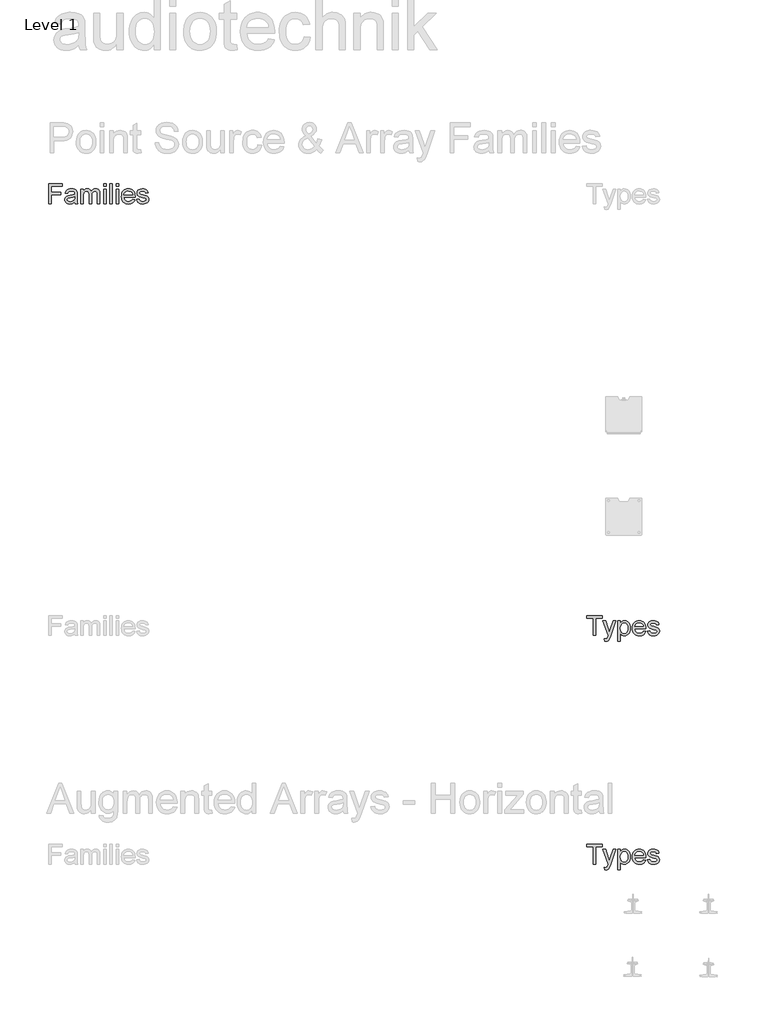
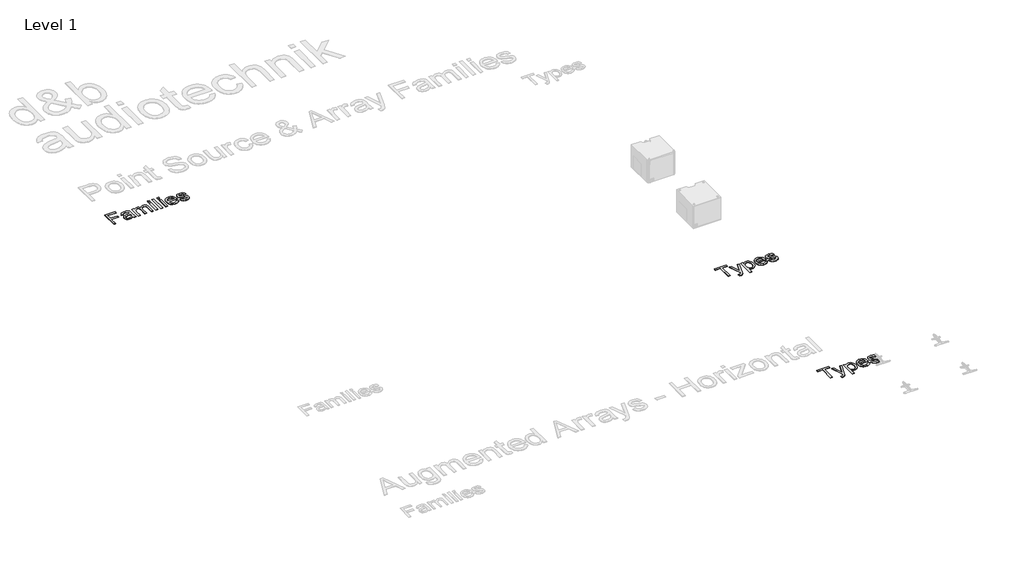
# One storey, part 6 of 9: 3 proxies.
"""IFC4 building model written with IfcOpenShell, lengths in millimetres."""

from ifc_helpers import new_model, si_unit, origin, origin_with_axes, place, context, project, spatial, polyline, outline, extrude, element, save

model = new_model("IFC4")

# Units and contexts
model_context = context("Model", 3, world=origin())
ifc_project = project(units=[si_unit("LENGTHUNIT", "METRE", prefix="MILLI")], contexts=[model_context])

# Site, building, storey
site = spatial("IfcSite", under=ifc_project)
building = spatial("IfcBuilding", under=site)
storey = spatial("IfcBuildingStorey", under=building, Name="Level 1", Elevation=0.0)

# Proxies
placement = place(None, origin())
element("IfcBuildingElementProxy", 1, Name="400mm Arial", ObjectType="400mm Arial", at=placement, inside=storey, context=model_context, shape_type="SweptSolid", body=[
    extrude(outline(polyline([(-21056.720891, 17351.3054836), (-21056.720891, 17743.0630593), (-20793.5087698, 17743.0630593), (-20793.5087698, 17694.0933624), (-21007.7511941, 17694.0933624), (-21007.7511941, 17577.7903321), (-20824.1148304, 17577.7903321), (-20824.1148304, 17528.8206351), (-21007.7511941, 17528.8206351), (-21007.7511941, 17351.3054836), (-21056.720891, 17351.3054836)])), origin_with_axes(), (0.0, 0.0, 1.0), 5.0),
    extrude(outline(polyline([(-20548.660285, 17388.0327563), (-20572.0571836, 17367.97144), (-20596.1475009, 17354.8443093), (-20621.4811893, 17347.5992809), (-20648.6082016, 17345.1842715), (-20670.4120309, 17346.6368638), (-20689.5318522, 17350.9946408), (-20705.9676654, 17358.2576024), (-20719.7194706, 17368.4257487), (-20730.5780466, 17380.8534831), (-20738.3341723, 17394.895209), (-20742.9878477, 17410.5509263), (-20744.5390729, 17427.8206351), (-20742.1957963, 17448.1210612), (-20735.1659668, 17466.5564305), (-20724.3223352, 17482.3376805), (-20710.5376524, 17494.6757487), (-20676.2493001, 17510.7439305), (-20633.879035, 17518.1085139), (-20583.8094327, 17525.855673), (-20548.9472168, 17534.9418472), (-20548.660285, 17545.8452563), (-20552.0317338, 17567.6998965), (-20562.1460804, 17581.9986654), (-20584.7658721, 17592.6151427), (-20616.2805501, 17596.1539684), (-20645.4519516, 17593.7987364), (-20665.8241107, 17586.7330404), (-20679.7163929, 17573.6656872), (-20689.4481638, 17553.3054836), (-20738.4178607, 17559.4266957), (-20729.9175056, 17586.2069987), (-20717.2327282, 17607.2486654), (-20699.1799346, 17623.3407582), (-20674.5755312, 17635.2723396), (-20644.4835568, 17642.660834), (-20609.9680501, 17645.1236654), (-20576.8632916, 17642.9477658), (-20550.6209857, 17636.4200669), (-20530.8346458, 17626.6046076), (-20517.097785, 17614.5654268), (-20507.9876997, 17599.6808387), (-20502.0816865, 17581.3291578), (-20499.690588, 17538.480673), (-20499.690588, 17477.5554836), (-20497.2038456, 17392.4801995), (-20487.4481638, 17351.3054836), (-20536.4178607, 17351.3054836), (-20544.2606638, 17368.3301048), (-20548.660285, 17388.0327563)]), holes=[polyline([(-20548.660285, 17485.9721502), (-20581.5618001, 17477.8185044), (-20627.6621789, 17470.9560518), (-20669.7933342, 17463.0176048), (-20680.7565208, 17457.5898112), (-20688.8743001, 17450.105673), (-20693.8956069, 17441.1390536), (-20695.5693759, 17431.2638169), (-20691.9229507, 17416.7020271), (-20680.9836751, 17404.7704457), (-20662.990659, 17396.8080877), (-20638.1830122, 17394.1539684), (-20611.8809289, 17397.0830641), (-20588.6394516, 17405.870351), (-20569.7975956, 17418.8181493), (-20556.6943759, 17434.228779), (-20550.8840066, 17450.105673), (-20548.9472168, 17472.103779), (-20548.660285, 17485.9721502)])]), origin_with_axes(), (0.0, 0.0, 1.0), 5.0),
    extrude(outline(polyline([(-20432.3572547, 17351.3054836), (-20432.3572547, 17639.0024533), (-20383.3875577, 17639.0024533), (-20383.3875577, 17591.6587033), (-20368.658391, 17613.405744), (-20349.720891, 17630.4423207), (-20327.2206543, 17641.4533292), (-20301.8032774, 17645.1236654), (-20274.5686657, 17641.3815963), (-20252.7379365, 17630.1553889), (-20236.4306448, 17612.1862838), (-20225.7663456, 17588.2155215), (-20207.9167954, 17613.1128344), (-20187.5565918, 17630.8966294), (-20164.6857348, 17641.5669064), (-20139.3042244, 17645.1236654), (-20119.7002057, 17643.6441732), (-20102.4932632, 17639.2056966), (-20087.683397, 17631.8082357), (-20075.2706069, 17621.4517904), (-20065.4581365, 17608.0168058), (-20058.4492291, 17591.3837269), (-20054.2438846, 17571.5525539), (-20052.8421032, 17548.5232866), (-20052.8421032, 17351.3054836), (-20101.8118001, 17351.3054836), (-20101.8118001, 17527.4816199), (-20106.3548872, 17568.369404), (-20112.7391202, 17579.6434334), (-20122.8056448, 17588.5024533), (-20135.7534431, 17594.2410896), (-20150.7814971, 17596.1539684), (-20177.3107348, 17591.2522165), (-20198.9382206, 17576.5469608), (-20207.3279874, 17565.2669537), (-20213.320678, 17551.03394), (-20218.1148304, 17513.7088927), (-20218.1148304, 17351.3054836), (-20267.0845274, 17351.3054836), (-20267.0845274, 17532.9333245), (-20269.9179791, 17560.6222449), (-20278.4183342, 17580.3727184), (-20293.3746552, 17592.2086559), (-20315.5760047, 17596.1539684), (-20334.4417717, 17593.5237601), (-20351.8250577, 17585.6331351), (-20366.1716486, 17572.6733813), (-20375.9273304, 17554.8357866), (-20381.5225009, 17530.0879173), (-20383.3875577, 17496.3973396), (-20383.3875577, 17351.3054836), (-20432.3572547, 17351.3054836)])), origin_with_axes(), (0.0, 0.0, 1.0), 5.0),
    extrude(outline(polyline([(-19979.3875577, 17351.3054836), (-19979.3875577, 17639.0024533), (-19930.4178607, 17639.0024533), (-19930.4178607, 17351.3054836), (-19979.3875577, 17351.3054836)])), origin_with_axes(), (0.0, 0.0, 1.0), 5.0),
    extrude(outline(polyline([(-19979.3875577, 17694.0933624), (-19979.3875577, 17743.0630593), (-19930.4178607, 17743.0630593), (-19930.4178607, 17694.0933624), (-19979.3875577, 17694.0933624)])), origin_with_axes(), (0.0, 0.0, 1.0), 5.0),
    extrude(outline(polyline([(-19856.9633153, 17351.3054836), (-19856.9633153, 17743.0630593), (-19807.9936183, 17743.0630593), (-19807.9936183, 17351.3054836), (-19856.9633153, 17351.3054836)])), origin_with_axes(), (0.0, 0.0, 1.0), 5.0),
    extrude(outline(polyline([(-19734.5390729, 17351.3054836), (-19734.5390729, 17639.0024533), (-19685.5693759, 17639.0024533), (-19685.5693759, 17351.3054836), (-19734.5390729, 17351.3054836)])), origin_with_axes(), (0.0, 0.0, 1.0), 5.0),
    extrude(outline(polyline([(-19734.5390729, 17694.0933624), (-19734.5390729, 17743.0630593), (-19685.5693759, 17743.0630593), (-19685.5693759, 17694.0933624), (-19734.5390729, 17694.0933624)])), origin_with_axes(), (0.0, 0.0, 1.0), 5.0),
    extrude(outline(polyline([(-19410.6886941, 17437.0024533), (-19362.6754365, 17430.8812411), (-19370.0370309, 17411.6508316), (-19379.975034, 17394.7039211), (-19392.4894457, 17380.0405096), (-19407.580266, 17367.6605972), (-19425.0920736, 17357.8272047), (-19444.8694469, 17350.8033529), (-19491.220891, 17345.1842715), (-19521.605775, 17347.6082475), (-19548.6789876, 17354.8801758), (-19572.4405288, 17367.0000563), (-19592.8903986, 17383.9678889), (-19609.3351784, 17405.3114317), (-19621.0814497, 17430.5584429), (-19628.1292125, 17459.7089223), (-19630.4784668, 17492.7628699), (-19628.1053015, 17526.937645), (-19620.9858058, 17557.0595082), (-19609.1199796, 17583.1284594), (-19592.5078229, 17605.1444987), (-19572.1117528, 17622.6353841), (-19548.8941865, 17635.1288737), (-19522.855124, 17642.6249675), (-19493.9945653, 17645.1236654), (-19466.0635461, 17642.6309452), (-19440.8045795, 17635.1527847), (-19418.2176654, 17622.6891839), (-19398.3028039, 17605.2401427), (-19382.0463231, 17583.2719253), (-19370.4345511, 17557.2507961), (-19363.4674879, 17527.1767549), (-19361.1451335, 17493.0498018), (-19361.4320653, 17479.8509381), (-19581.5087698, 17479.8509381), (-19578.6723292, 17460.3096858), (-19573.0323257, 17443.1953983), (-19564.5887592, 17428.5080759), (-19553.3416297, 17416.2477184), (-19524.9234242, 17399.6774059), (-19490.2644516, 17394.1539684), (-19464.2014782, 17396.7124438), (-19442.2511941, 17404.3878699), (-19424.4135994, 17417.6584665), (-19410.6886941, 17437.0024533)]), holes=[polyline([(-19581.5087698, 17528.8206351), (-19410.1148304, 17528.8206351), (-19416.7381732, 17554.6923207), (-19429.721838, 17573.199423), (-19443.076123, 17583.2420366), (-19458.2715539, 17590.4153321), (-19494.1858532, 17596.1539684), (-19527.1949677, 17591.5750148), (-19554.4893569, 17577.838154), (-19573.4627234, 17556.4258671), (-19581.5087698, 17528.8206351)])]), origin_with_axes(), (0.0, 0.0, 1.0), 5.0),
    extrude(outline(polyline([(-19330.5390729, 17437.0024533), (-19281.5693759, 17443.1236654), (-19273.8461278, 17422.1776427), (-19258.9017622, 17406.7789684), (-19236.6406354, 17397.3102184), (-19206.9671032, 17394.1539684), (-19177.6522357, 17397.0471976), (-19157.0409668, 17405.7268851), (-19144.8463645, 17418.3040631), (-19140.7814971, 17432.8897639), (-19144.8702755, 17445.371298), (-19157.1366107, 17454.8878699), (-19207.5409668, 17468.8518851), (-19281.2824441, 17492.8106919), (-19299.9449677, 17504.8498728), (-19313.4666297, 17520.7865442), (-19321.680053, 17539.6044893), (-19324.4178607, 17560.2874911), (-19322.2180501, 17579.2608576), (-19315.6186183, 17596.775654), (-19305.2173399, 17612.1384618), (-19291.6119895, 17624.6558624), (-19260.4798872, 17639.1459192), (-19218.3487319, 17645.1236654), (-19186.4753891, 17642.7206114), (-19158.7625577, 17635.5114495), (-19136.4775198, 17624.2015536), (-19120.8875577, 17609.496298), (-19110.5580122, 17590.3077326), (-19104.0542244, 17565.5479078), (-19153.0239213, 17559.4266957), (-19159.2049109, 17574.8373254), (-19171.4353797, 17586.4461086), (-19189.8348825, 17593.7270035), (-19214.5229744, 17596.1539684), (-19242.6422925, 17593.8346029), (-19261.3885047, 17586.8765063), (-19271.933249, 17576.8338927), (-19275.4481638, 17565.260976), (-19269.6138835, 17551.010029), (-19251.345891, 17540.2022639), (-19209.1669138, 17529.7770745), (-19137.2904933, 17506.7268851), (-19118.3051713, 17495.7039211), (-19103.9107585, 17480.6160896), (-19094.8365397, 17461.4155688), (-19091.8118001, 17438.0545366), (-19095.3625814, 17413.9044419), (-19106.0149251, 17391.1890063), (-19123.3623446, 17371.6895982), (-19146.9983532, 17357.1875858), (-19175.5480691, 17348.1851), (-19207.6366107, 17345.1842715), (-19233.9924938, 17346.630886), (-19257.0127944, 17350.9707298), (-19276.6975127, 17358.2038027), (-19293.0466486, 17368.3301048), (-19306.4009336, 17381.3018141), (-19317.1010994, 17397.0711086), (-19325.1471458, 17415.6379883), (-19330.5390729, 17437.0024533)])), origin_with_axes(), (0.0, 0.0, 1.0), 5.0),
])
element("IfcBuildingElementProxy", 2, Name="400mm Arial", ObjectType="400mm Arial", at=placement, inside=storey, context=model_context, shape_type="SweptSolid", body=[
    extrude(outline(polyline([(-10345.9583027, 4351.3054836), (-10345.9583027, 4694.0933624), (-10474.5037572, 4694.0933624), (-10474.5037572, 4743.0630593), (-10168.4431512, 4743.0630593), (-10168.4431512, 4694.0933624), (-10296.9886057, 4694.0933624), (-10296.9886057, 4351.3054836), (-10345.9583027, 4351.3054836)])), origin_with_axes(), (0.0, 0.0, 1.0), 5.0),
    extrude(outline(polyline([(-10119.4734542, 4241.1236654), (-10125.5946663, 4288.2761275), (-10100.7272421, 4283.9721502), (-10087.6479334, 4285.3231209), (-10077.4857648, 4289.3760328), (-10063.2348179, 4304.4399533), (-10049.8446663, 4340.4977184), (-10046.0189088, 4352.3575669), (-10150.0795148, 4639.0024533), (-10098.4317875, 4639.0024533), (-10043.2452345, 4479.2770745), (-10024.0208027, 4415.386923), (-10004.7963709, 4471.8168472), (-9948.0795148, 4639.0024533), (-9896.8143633, 4639.0024533), (-9996.9535679, 4344.4191199), (-10022.9687194, 4280.5289684), (-10036.2871379, 4260.1328983), (-10051.3749694, 4246.0015063), (-10068.9017213, 4237.7522165), (-10089.5369012, 4235.0024533), (-10119.4734542, 4241.1236654)])), origin_with_axes(), (0.0, 0.0, 1.0), 5.0),
    extrude(outline(polyline([(-9856.261333, 4241.1236654), (-9856.261333, 4639.0024533), (-9807.291636, 4639.0024533), (-9807.291636, 4590.9891957), (-9791.3190982, 4614.6730262), (-9773.4336815, 4631.590048), (-9752.5833027, 4641.740261), (-9727.7158785, 4645.1236654), (-9694.5991644, 4640.3892904), (-9665.6429618, 4626.1861654), (-9642.0667307, 4603.3750858), (-9625.0899315, 4572.8168472), (-9614.832119, 4536.7351711), (-9611.4128482, 4497.353779), (-9615.2744722, 4455.4736891), (-9626.8593444, 4418.0171313), (-9645.7968444, 4386.885029), (-9671.7163519, 4363.9783055), (-9701.9039703, 4349.88278), (-9733.6458027, 4345.1842715), (-9756.1579949, 4348.328566), (-9776.2551777, 4357.7614495), (-9793.4591313, 4372.000441), (-9807.291636, 4389.5630593), (-9807.291636, 4241.1236654), (-9856.261333, 4241.1236654)]), holes=[polyline([(-9807.291636, 4492.8585139), (-9801.9953529, 4448.9579457), (-9795.374999, 4431.9572355), (-9786.1065035, 4418.2562411), (-9762.6617828, 4400.1795366), (-9749.2447314, 4395.6603605), (-9734.697886, 4394.1539684), (-9719.9418195, 4395.7141602), (-9706.2796805, 4400.3947355), (-9682.2371853, 4419.1170366), (-9672.6757802, 4433.3141839), (-9665.8462052, 4450.9425574), (-9660.3825451, 4496.4929836), (-9665.7146947, 4540.1544419), (-9672.3798818, 4557.2866625), (-9681.7111436, 4571.2865442), (-9705.1199978, 4589.9371124), (-9718.3846166, 4594.5997544), (-9732.6893633, 4596.1539684), (-9746.9492769, 4594.5011216), (-9760.3663283, 4589.5425811), (-9784.6718444, 4569.7084192), (-9794.5680032, 4554.9882191), (-9801.6366881, 4537.2731682), (-9805.8778991, 4516.5632665), (-9807.291636, 4492.8585139)])]), origin_with_axes(), (0.0, 0.0, 1.0), 5.0),
    extrude(outline(polyline([(-9354.8958027, 4437.0024533), (-9306.8825451, 4430.8812411), (-9314.2441396, 4411.6508316), (-9324.1821427, 4394.7039211), (-9336.6965544, 4380.0405096), (-9351.7873747, 4367.6605972), (-9369.2991822, 4357.8272047), (-9389.0765555, 4350.8033529), (-9435.4279997, 4345.1842715), (-9465.8128837, 4347.6082475), (-9492.8860963, 4354.8801758), (-9516.6476375, 4367.0000563), (-9537.0975072, 4383.9678889), (-9553.5422871, 4405.3114317), (-9565.2885584, 4430.5584429), (-9572.3363212, 4459.7089223), (-9574.6855754, 4492.7628699), (-9572.3124102, 4526.937645), (-9565.1929144, 4557.0595082), (-9553.3270882, 4583.1284594), (-9536.7149315, 4605.1444987), (-9516.3188614, 4622.6353841), (-9493.1012951, 4635.1288737), (-9467.0622326, 4642.6249675), (-9438.2016739, 4645.1236654), (-9410.2706547, 4642.6309452), (-9385.0116881, 4635.1527847), (-9362.4247741, 4622.6891839), (-9342.5099125, 4605.2401427), (-9326.2534317, 4583.2719253), (-9314.6416597, 4557.2507961), (-9307.6745965, 4527.1767549), (-9305.3522421, 4493.0498018), (-9305.6391739, 4479.8509381), (-9525.7158785, 4479.8509381), (-9522.8794379, 4460.3096858), (-9517.2394343, 4443.1953983), (-9508.7958678, 4428.5080759), (-9497.5487383, 4416.2477184), (-9469.1305328, 4399.6774059), (-9434.4715603, 4394.1539684), (-9408.4085868, 4396.7124438), (-9386.4583027, 4404.3878699), (-9368.620708, 4417.6584665), (-9354.8958027, 4437.0024533)]), holes=[polyline([(-9525.7158785, 4528.8206351), (-9354.3219391, 4528.8206351), (-9360.9452819, 4554.6923207), (-9373.9289466, 4573.199423), (-9387.2832317, 4583.2420366), (-9402.4786625, 4590.4153321), (-9438.3929618, 4596.1539684), (-9471.4020764, 4591.5750148), (-9498.6964656, 4577.838154), (-9517.6698321, 4556.4258671), (-9525.7158785, 4528.8206351)])]), origin_with_axes(), (0.0, 0.0, 1.0), 5.0),
    extrude(outline(polyline([(-9274.7461815, 4437.0024533), (-9225.7764845, 4443.1236654), (-9218.0532364, 4422.1776427), (-9203.1088709, 4406.7789684), (-9180.847744, 4397.3102184), (-9151.1742118, 4394.1539684), (-9121.8593444, 4397.0471976), (-9101.2480754, 4405.7268851), (-9089.0534732, 4418.3040631), (-9084.9886057, 4432.8897639), (-9089.0773841, 4445.371298), (-9101.3437194, 4454.8878699), (-9151.7480754, 4468.8518851), (-9225.4895527, 4492.8106919), (-9244.1520764, 4504.8498728), (-9257.6737383, 4520.7865442), (-9265.8871616, 4539.6044893), (-9268.6249694, 4560.2874911), (-9266.4251588, 4579.2608576), (-9259.8257269, 4596.775654), (-9249.4244485, 4612.1384618), (-9235.8190982, 4624.6558624), (-9204.6869959, 4639.1459192), (-9162.5558406, 4645.1236654), (-9130.6824978, 4642.7206114), (-9102.9696663, 4635.5114495), (-9080.6846285, 4624.2015536), (-9065.0946663, 4609.496298), (-9054.7651209, 4590.3077326), (-9048.261333, 4565.5479078), (-9097.23103, 4559.4266957), (-9103.4120196, 4574.8373254), (-9115.6424883, 4586.4461086), (-9134.0419911, 4593.7270035), (-9158.730083, 4596.1539684), (-9186.8494012, 4593.8346029), (-9205.5956133, 4586.8765063), (-9216.1403576, 4576.8338927), (-9219.6552724, 4565.260976), (-9213.8209921, 4551.010029), (-9195.5529997, 4540.2022639), (-9153.3740224, 4529.7770745), (-9081.4976019, 4506.7268851), (-9062.51228, 4495.7039211), (-9048.1178671, 4480.6160896), (-9039.0436483, 4461.4155688), (-9036.0189088, 4438.0545366), (-9039.56969, 4413.9044419), (-9050.2220338, 4391.1890063), (-9067.5694533, 4371.6895982), (-9091.2054618, 4357.1875858), (-9119.7551777, 4348.1851), (-9151.8437194, 4345.1842715), (-9178.1996024, 4346.630886), (-9201.2199031, 4350.9707298), (-9220.9046214, 4358.2038027), (-9237.2537572, 4368.3301048), (-9250.6080423, 4381.3018141), (-9261.308208, 4397.0711086), (-9269.3542544, 4415.6379883), (-9274.7461815, 4437.0024533)])), origin_with_axes(), (0.0, 0.0, 1.0), 5.0),
])
element("IfcBuildingElementProxy", 3, Name="400mm Arial", ObjectType="400mm Arial", at=placement, inside=storey, context=model_context, shape_type="SweptSolid", body=[
    extrude(outline(polyline([(-10345.9583027, 8851.3054836), (-10345.9583027, 9194.0933624), (-10474.5037572, 9194.0933624), (-10474.5037572, 9243.0630593), (-10168.4431512, 9243.0630593), (-10168.4431512, 9194.0933624), (-10296.9886057, 9194.0933624), (-10296.9886057, 8851.3054836), (-10345.9583027, 8851.3054836)])), origin_with_axes(), (0.0, 0.0, 1.0), 5.0),
    extrude(outline(polyline([(-10119.4734542, 8741.1236654), (-10125.5946663, 8788.2761275), (-10100.7272421, 8783.9721502), (-10087.6479334, 8785.3231209), (-10077.4857648, 8789.3760328), (-10063.2348179, 8804.4399533), (-10049.8446663, 8840.4977184), (-10046.0189088, 8852.3575669), (-10150.0795148, 9139.0024533), (-10098.4317875, 9139.0024533), (-10043.2452345, 8979.2770745), (-10024.0208027, 8915.386923), (-10004.7963709, 8971.8168472), (-9948.0795148, 9139.0024533), (-9896.8143633, 9139.0024533), (-9996.9535679, 8844.4191199), (-10022.9687194, 8780.5289684), (-10036.2871379, 8760.1328983), (-10051.3749694, 8746.0015063), (-10068.9017213, 8737.7522165), (-10089.5369012, 8735.0024533), (-10119.4734542, 8741.1236654)])), origin_with_axes(), (0.0, 0.0, 1.0), 5.0),
    extrude(outline(polyline([(-9856.261333, 8741.1236654), (-9856.261333, 9139.0024533), (-9807.291636, 9139.0024533), (-9807.291636, 9090.9891957), (-9791.3190982, 9114.6730262), (-9773.4336815, 9131.590048), (-9752.5833027, 9141.740261), (-9727.7158785, 9145.1236654), (-9694.5991644, 9140.3892904), (-9665.6429618, 9126.1861654), (-9642.0667307, 9103.3750858), (-9625.0899315, 9072.8168472), (-9614.832119, 9036.7351711), (-9611.4128482, 8997.353779), (-9615.2744722, 8955.4736891), (-9626.8593444, 8918.0171313), (-9645.7968444, 8886.885029), (-9671.7163519, 8863.9783055), (-9701.9039703, 8849.88278), (-9733.6458027, 8845.1842715), (-9756.1579949, 8848.328566), (-9776.2551777, 8857.7614495), (-9793.4591313, 8872.000441), (-9807.291636, 8889.5630593), (-9807.291636, 8741.1236654), (-9856.261333, 8741.1236654)]), holes=[polyline([(-9807.291636, 8992.8585139), (-9801.9953529, 8948.9579457), (-9795.374999, 8931.9572355), (-9786.1065035, 8918.2562411), (-9762.6617828, 8900.1795366), (-9749.2447314, 8895.6603605), (-9734.697886, 8894.1539684), (-9719.9418195, 8895.7141602), (-9706.2796805, 8900.3947355), (-9682.2371853, 8919.1170366), (-9672.6757802, 8933.3141839), (-9665.8462052, 8950.9425574), (-9660.3825451, 8996.4929836), (-9665.7146947, 9040.1544419), (-9672.3798818, 9057.2866625), (-9681.7111436, 9071.2865442), (-9705.1199978, 9089.9371124), (-9718.3846166, 9094.5997544), (-9732.6893633, 9096.1539684), (-9746.9492769, 9094.5011216), (-9760.3663283, 9089.5425811), (-9784.6718444, 9069.7084192), (-9794.5680032, 9054.9882191), (-9801.6366881, 9037.2731682), (-9805.8778991, 9016.5632665), (-9807.291636, 8992.8585139)])]), origin_with_axes(), (0.0, 0.0, 1.0), 5.0),
    extrude(outline(polyline([(-9354.8958027, 8937.0024533), (-9306.8825451, 8930.8812411), (-9314.2441396, 8911.6508316), (-9324.1821427, 8894.7039211), (-9336.6965544, 8880.0405096), (-9351.7873747, 8867.6605972), (-9369.2991822, 8857.8272047), (-9389.0765555, 8850.8033529), (-9435.4279997, 8845.1842715), (-9465.8128837, 8847.6082475), (-9492.8860963, 8854.8801758), (-9516.6476375, 8867.0000563), (-9537.0975072, 8883.9678889), (-9553.5422871, 8905.3114317), (-9565.2885584, 8930.5584429), (-9572.3363212, 8959.7089223), (-9574.6855754, 8992.7628699), (-9572.3124102, 9026.937645), (-9565.1929144, 9057.0595082), (-9553.3270882, 9083.1284594), (-9536.7149315, 9105.1444987), (-9516.3188614, 9122.6353841), (-9493.1012951, 9135.1288737), (-9467.0622326, 9142.6249675), (-9438.2016739, 9145.1236654), (-9410.2706547, 9142.6309452), (-9385.0116881, 9135.1527847), (-9362.4247741, 9122.6891839), (-9342.5099125, 9105.2401427), (-9326.2534317, 9083.2719253), (-9314.6416597, 9057.2507961), (-9307.6745965, 9027.1767549), (-9305.3522421, 8993.0498018), (-9305.6391739, 8979.8509381), (-9525.7158785, 8979.8509381), (-9522.8794379, 8960.3096858), (-9517.2394343, 8943.1953983), (-9508.7958678, 8928.5080759), (-9497.5487383, 8916.2477184), (-9469.1305328, 8899.6774059), (-9434.4715603, 8894.1539684), (-9408.4085868, 8896.7124438), (-9386.4583027, 8904.3878699), (-9368.620708, 8917.6584665), (-9354.8958027, 8937.0024533)]), holes=[polyline([(-9525.7158785, 9028.8206351), (-9354.3219391, 9028.8206351), (-9360.9452819, 9054.6923207), (-9373.9289466, 9073.199423), (-9387.2832317, 9083.2420366), (-9402.4786625, 9090.4153321), (-9438.3929618, 9096.1539684), (-9471.4020764, 9091.5750148), (-9498.6964656, 9077.838154), (-9517.6698321, 9056.4258671), (-9525.7158785, 9028.8206351)])]), origin_with_axes(), (0.0, 0.0, 1.0), 5.0),
    extrude(outline(polyline([(-9274.7461815, 8937.0024533), (-9225.7764845, 8943.1236654), (-9218.0532364, 8922.1776427), (-9203.1088709, 8906.7789684), (-9180.847744, 8897.3102184), (-9151.1742118, 8894.1539684), (-9121.8593444, 8897.0471976), (-9101.2480754, 8905.7268851), (-9089.0534732, 8918.3040631), (-9084.9886057, 8932.8897639), (-9089.0773841, 8945.371298), (-9101.3437194, 8954.8878699), (-9151.7480754, 8968.8518851), (-9225.4895527, 8992.8106919), (-9244.1520764, 9004.8498728), (-9257.6737383, 9020.7865442), (-9265.8871616, 9039.6044893), (-9268.6249694, 9060.2874911), (-9266.4251588, 9079.2608576), (-9259.8257269, 9096.775654), (-9249.4244485, 9112.1384618), (-9235.8190982, 9124.6558624), (-9204.6869959, 9139.1459192), (-9162.5558406, 9145.1236654), (-9130.6824978, 9142.7206114), (-9102.9696663, 9135.5114495), (-9080.6846285, 9124.2015536), (-9065.0946663, 9109.496298), (-9054.7651209, 9090.3077326), (-9048.261333, 9065.5479078), (-9097.23103, 9059.4266957), (-9103.4120196, 9074.8373254), (-9115.6424883, 9086.4461086), (-9134.0419911, 9093.7270035), (-9158.730083, 9096.1539684), (-9186.8494012, 9093.8346029), (-9205.5956133, 9086.8765063), (-9216.1403576, 9076.8338927), (-9219.6552724, 9065.260976), (-9213.8209921, 9051.010029), (-9195.5529997, 9040.2022639), (-9153.3740224, 9029.7770745), (-9081.4976019, 9006.7268851), (-9062.51228, 8995.7039211), (-9048.1178671, 8980.6160896), (-9039.0436483, 8961.4155688), (-9036.0189088, 8938.0545366), (-9039.56969, 8913.9044419), (-9050.2220338, 8891.1890063), (-9067.5694533, 8871.6895982), (-9091.2054618, 8857.1875858), (-9119.7551777, 8848.1851), (-9151.8437194, 8845.1842715), (-9178.1996024, 8846.630886), (-9201.2199031, 8850.9707298), (-9220.9046214, 8858.2038027), (-9237.2537572, 8868.3301048), (-9250.6080423, 8881.3018141), (-9261.308208, 8897.0711086), (-9269.3542544, 8915.6379883), (-9274.7461815, 8937.0024533)])), origin_with_axes(), (0.0, 0.0, 1.0), 5.0),
])

save(model, "model.ifc")
